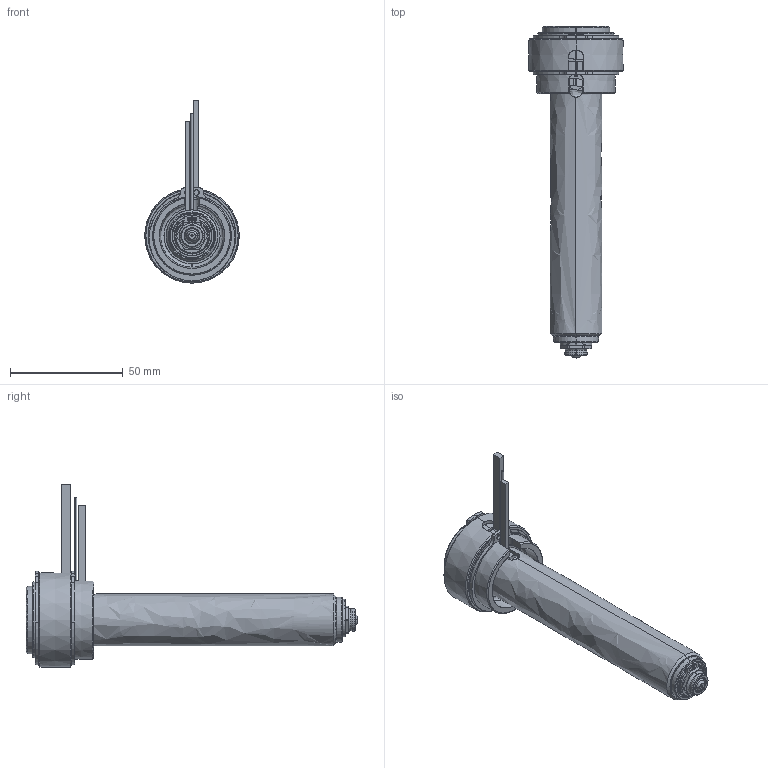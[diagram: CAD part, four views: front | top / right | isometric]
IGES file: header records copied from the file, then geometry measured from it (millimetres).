
Start section: SolidWorks IGES file using analytic representation for surfaces
Global section: file name: C:\Documents and Settings\ws-20\Desktop\TEM\UGER3553-M-A-0 [Øb-0.90  ØC-7.0].IGS; native system: SolidWorks 2012; preprocessor: SolidWorks 2012; author: ws-20; date: 120410.100844; units: millimetre
Bounding box: 42 x 147.4 x 80.9 mm (x, y, z)
Surface area: 37246.4 mm2 (no closed solid volume)
Topology: 0 solids, 0 shells, 200 faces, 3340 edges, 3340 vertices
Faces by surface type: revolution 126, bspline 74
